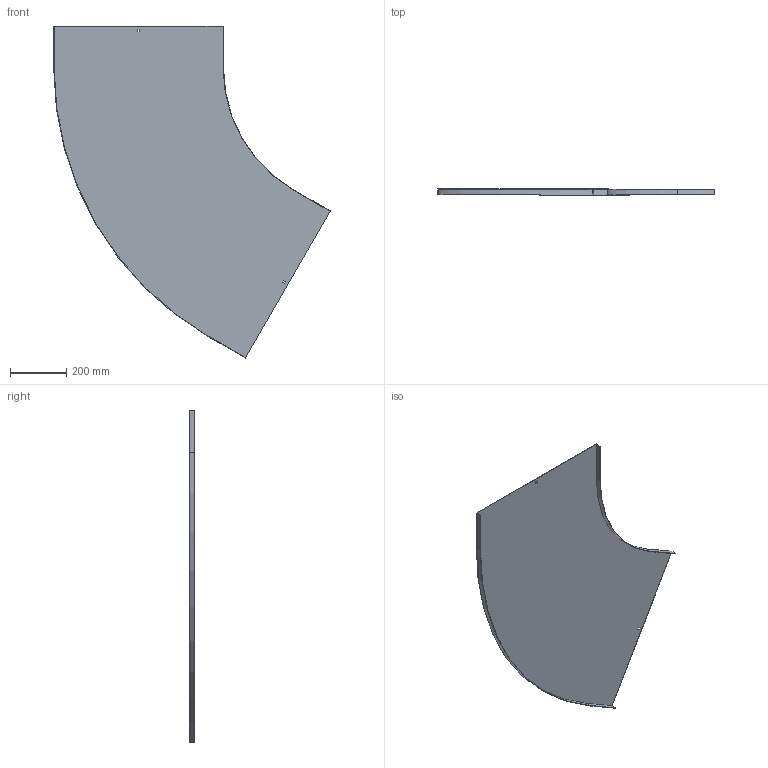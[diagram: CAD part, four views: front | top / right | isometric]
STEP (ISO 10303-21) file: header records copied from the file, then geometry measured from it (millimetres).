
FILE_DESCRIPTION (( 'STEP AP214' ), '1' );
FILE_NAME ('13N5R600.step', '2025-02-21T14:27:18', ( '' ), ( '' ), 'SwSTEP 2.0', 'SolidWorks 2023', '' );
FILE_SCHEMA (( 'AUTOMOTIVE_DESIGN' ));
Length unit declared in the file: millimetre
Products named in the file (1): 13N5R600
Bounding box: 982.15 x 20 x 1178.93 mm (x, y, z)
Volume: 1092072.2 mm3; surface area: 1461522.6 mm2
Topology: 1 solids, 1 shells, 26 faces, 72 edges, 48 vertices
Faces by surface type: plane 22, cylinder 4
Entity records: 855 total; most frequent: CARTESIAN_POINT 147, ORIENTED_EDGE 144, DIRECTION 134, EDGE_CURVE 72, LINE 64, VECTOR 64, VERTEX_POINT 48, AXIS2_PLACEMENT_3D 35
